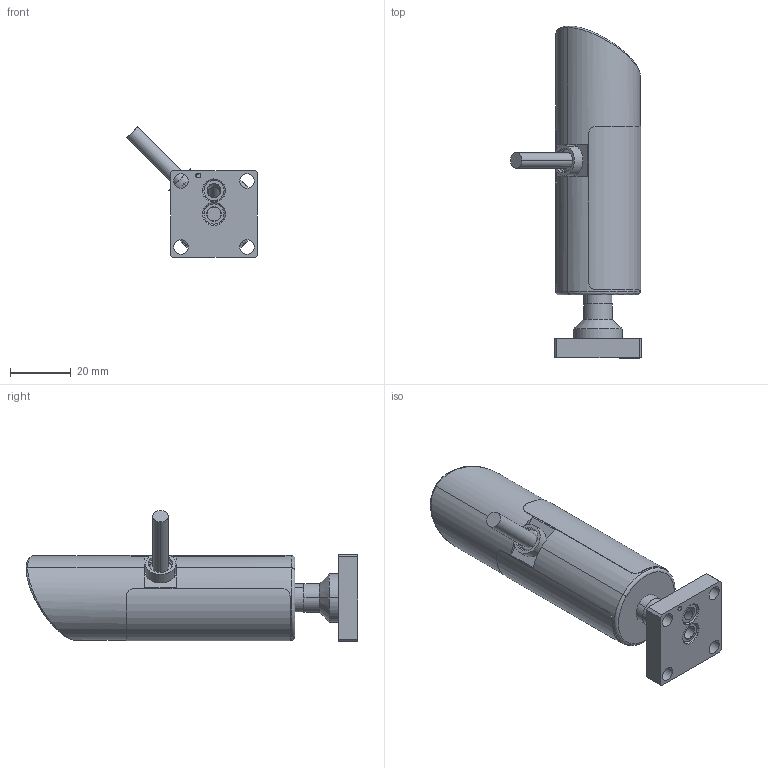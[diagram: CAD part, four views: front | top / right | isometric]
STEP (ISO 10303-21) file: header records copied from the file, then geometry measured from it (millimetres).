
FILE_DESCRIPTION (( 'STEP AP214' ), '1' );
FILE_NAME ('GRD-XXXXXX-P-XXX-CS.STEP', '2025-06-25T14:55:01', ( '' ), ( '' ), 'SwSTEP 2.0', 'SolidWorks 2023', '' );
FILE_SCHEMA (( 'AUTOMOTIVE_DESIGN' ));
Length unit declared in the file: inch
Products named in the file (4): GRx_P; 333127; GRD-XXXXXX-P-XXX-CS; GRx-XXXXXX-P BODY
Assembly tree (3 placements, depth 2):
  GRD-XXXXXX-P-XXX-CS
    GRx-XXXXXX-P BODY
    GRx_P
    333127
Bounding box: 43.07 x 109.32 x 43.07 mm (x, y, z)
Volume: 54943.8 mm3; surface area: 14326 mm2
Topology: 3 solids, 4 shells, 1141 faces, 3126 edges, 2073 vertices
Faces by surface type: plane 970, cylinder 86, bspline 57, sphere 12, cone 12, torus 4
Entity records: 39641 total; most frequent: CARTESIAN_POINT 10748, ORIENTED_EDGE 6244, DIRECTION 5379, EDGE_CURVE 3122, LINE 2751, VECTOR 2751, VERTEX_POINT 2073, AXIS2_PLACEMENT_3D 1314
